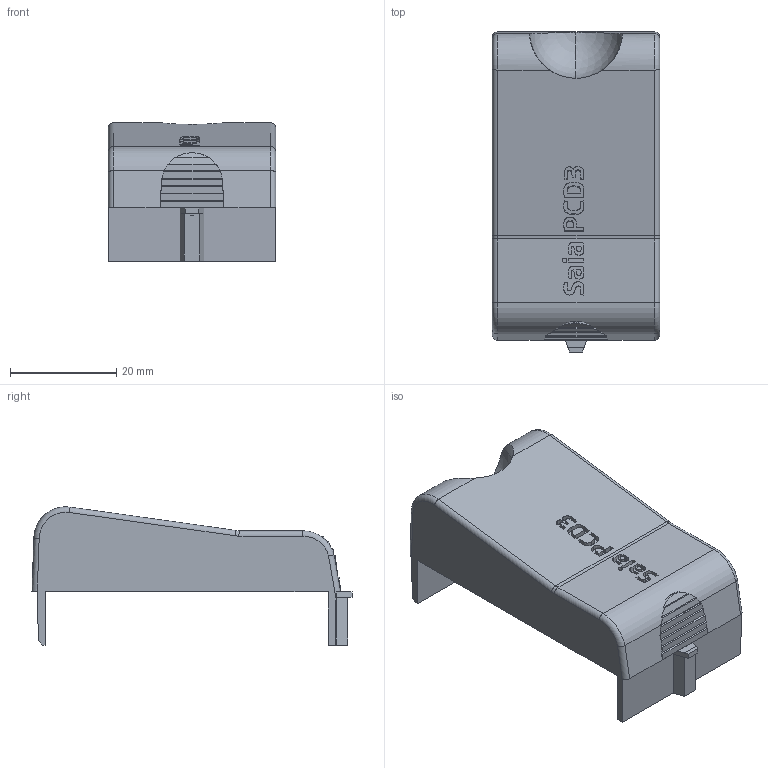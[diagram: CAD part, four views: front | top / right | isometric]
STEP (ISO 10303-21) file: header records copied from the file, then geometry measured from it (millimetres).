
FILE_DESCRIPTION(('CAx-IF Rec.Pracs.---Model Styling and Organization---1.5---2016-08-15','CAx-IF Rec.Pracs.---Geometric and Assembly Validation Properties---4.4---2016-08-17','CAx-IF Rec.Pracs.---User Defined Attributes---1.5---2016-08-15','CAx-IF Rec.Pracs.---External References---2.1---2005-01-19'),'2;1');
FILE_NAME('SBC_STP_ACC_410475150_PCD3-IO-Cover_2021-09-05.stp','2021-09-06T21:37:07',('Unspecified'),('Unspecified'),'CAD Exchanger 3.9.1 (cadexchanger.com)','Unspecified','');
FILE_SCHEMA(('AUTOMOTIVE_DESIGN { 1 0 10303 214 1 1 1 1 }'));
Length unit declared in the file: millimetre
Products named in the file (2): Riffel; Cut004
Bounding box: 31.5 x 60.2 x 26 mm (x, y, z)
Volume: 6354.9 mm3; surface area: 9460.3 mm2
Topology: 2 solids, 2 shells, 211 faces, 555 edges, 362 vertices
Faces by surface type: plane 98, extrusion 82, cylinder 21, torus 6, sphere 4
Full cylindrical faces by diameter (mm): 2 x1
Entity records: 10063 total; most frequent: CARTESIAN_POINT 3578, ORIENTED_EDGE 1110, DIRECTION 797, EDGE_CURVE 555, VECTOR 393, VERTEX_POINT 362, LINE 311, B_SPLINE_CURVE_WITH_KNOTS 254
